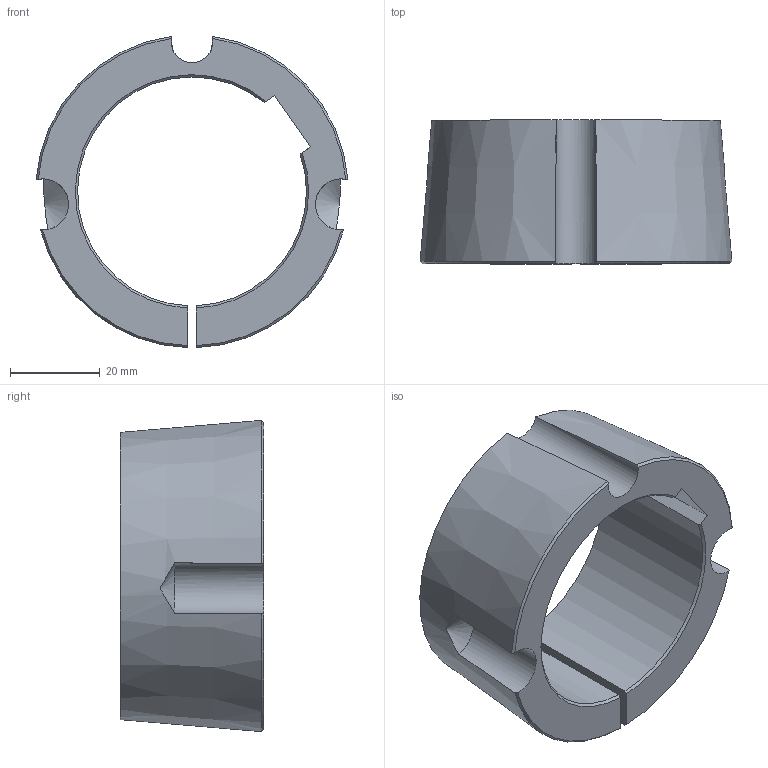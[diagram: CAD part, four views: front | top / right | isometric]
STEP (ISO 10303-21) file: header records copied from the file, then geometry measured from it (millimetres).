
FILE_DESCRIPTION(/* description */ (''),/* implementation_level */ '2;1');
FILE_NAME(/* name */ '\\emc\Varie\PROGETTO SCUOLA\29\BUSSOLE CONICHE-3d\29201250.stp',/* time_stamp */ '2017-12-27T10:30:33+01:00',/* author */ ('stagistacad'),/* organization */ (''),/* preprocessor_version */ 'ST-DEVELOPER v15.6',/* originating_system */ 'Autodesk Inventor 2015',/* authorisation */ '');
FILE_SCHEMA (('AUTOMOTIVE_DESIGN { 1 0 10303 214 3 1 1 }'));
Length unit declared in the file: millimetre
Products named in the file (1): 29201250
Bounding box: 69.49 x 32 x 69.38 mm (x, y, z)
Volume: 42729.8 mm3; surface area: 15551.5 mm2
Topology: 1 solids, 1 shells, 22 faces, 60 edges, 40 vertices
Faces by surface type: cone 10, plane 7, cylinder 5
Entity records: 796 total; most frequent: CARTESIAN_POINT 241, ORIENTED_EDGE 120, DIRECTION 106, EDGE_CURVE 60, AXIS2_PLACEMENT_3D 45, VERTEX_POINT 40, FACE_OUTER_BOUND 22, EDGE_LOOP 22
